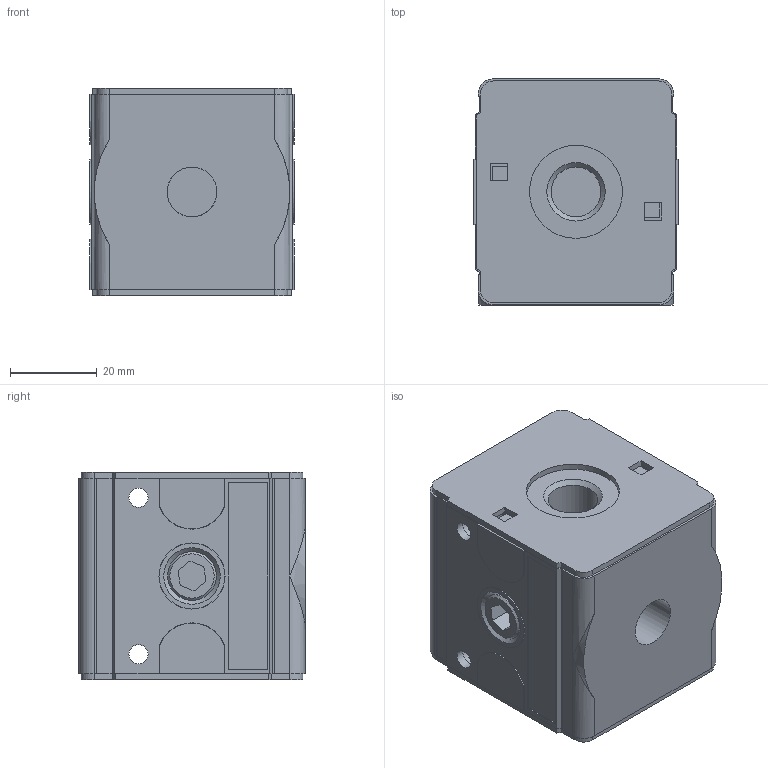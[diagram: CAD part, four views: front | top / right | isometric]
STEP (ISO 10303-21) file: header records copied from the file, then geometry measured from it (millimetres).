
FILE_DESCRIPTION((''),'2;1');
FILE_NAME('K:\ZEICHNG\Kunden Modelle\Multifix Steps\NL.2\T.11.stp','2010-03-16T11:49:41',('DDruske'),(''),'Autodesk Inventor 2009','Autodesk Inventor 2009','');
FILE_SCHEMA(('AUTOMOTIVE_DESIGN { 1 0 10303 214 1 1 1 1 }'));
Length unit declared in the file: millimetre
Products named in the file (1): Bauteil1
Bounding box: 47 x 52 x 47.8 mm (x, y, z)
Volume: 88220.1 mm3; surface area: 32510.3 mm2
Topology: 1 solids, 1 shells, 338 faces, 911 edges, 585 vertices
Faces by surface type: plane 207, bspline 76, cylinder 49, cone 6
Full cylindrical faces by diameter (mm): 5.2 x2, 11.2 x2, 15.1 x1, 15.7 x1, 19.2 x1, 21.2 x1, 21.4 x2, 23.1 x1
Entity records: 10794 total; most frequent: CARTESIAN_POINT 2261, ORIENTED_EDGE 1744, DIRECTION 1508, EDGE_CURVE 872, VECTOR 738, LINE 738, VERTEX_POINT 574, EDGE_LOOP 400
